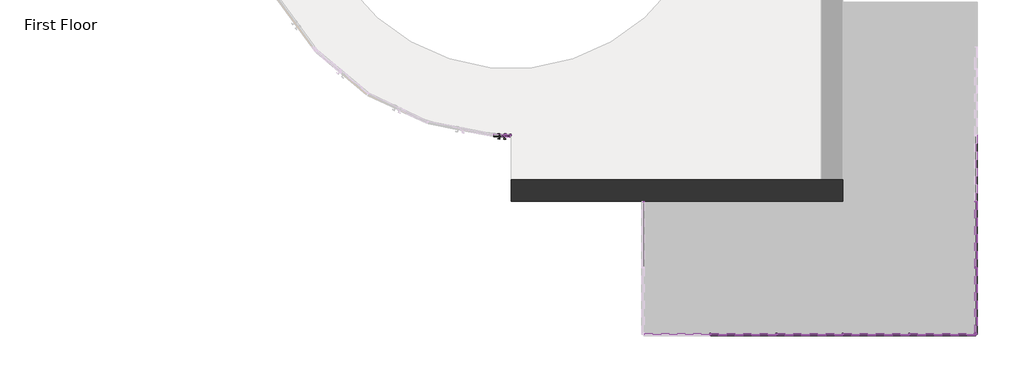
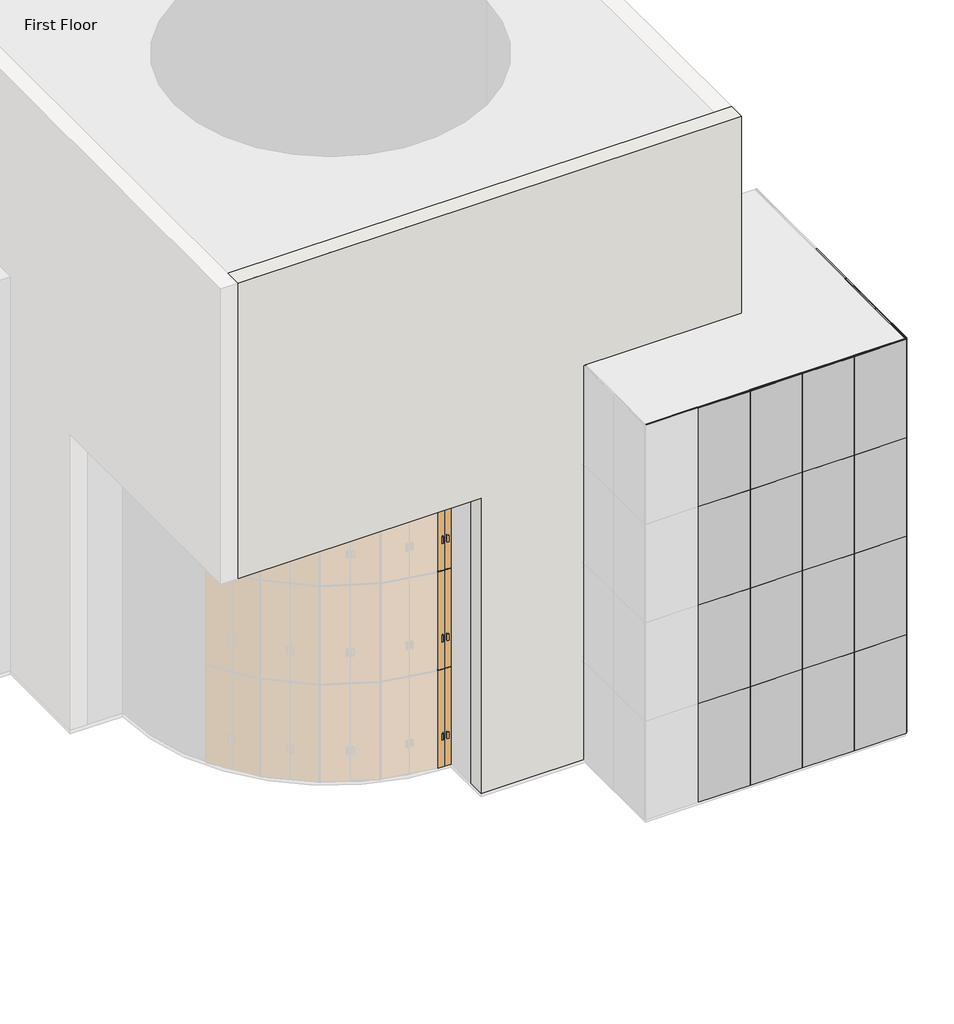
# One storey, part 2 of 4: 78 members, 28 plates, 3 doors, 1 wall.
"""IFC4 building model written with IfcOpenShell, lengths in millimetres."""

from ifc_helpers import new_model, si_unit, origin, place, context, project, spatial, faceted_brep, transform, mapped, element, save
from components import door_curtain_wall_double_glass_door_curtain_wall_double_37eb0fd1, door_curtain_wall_double_glass_door_curtain_wall_double_6fb70b25, member_bc106393, member_cbdb9076, member_707bc92b, member_7e523723, member_e16e0e7d, member_15743826, member_c4f80b05, member_9fd3d903, member_6604d1e0, system_panel_glazed_c0c5e10a

model = new_model("IFC4")

# Units and contexts
model_context = context("Model", 3, world=origin())
ifc_project = project(units=[si_unit("LENGTHUNIT", "METRE", prefix="MILLI")], contexts=[model_context])

# Site, building, storey
site = spatial("IfcSite", under=ifc_project)
building = spatial("IfcBuilding", under=site)
storey = spatial("IfcBuildingStorey", under=building, Name="First Floor", Elevation=0.0)

# Doors
placement = place(None, origin())
door_curtain_wall_double_glass_door_curtain_wall_double_shape = door_curtain_wall_double_glass_door_curtain_wall_double_37eb0fd1(model_context)
element("IfcDoor", 1, ObjectType="Door-Curtain-Wall-Double-Glass : Door-Curtain-Wall-Double-Glass", at=placement, inside=storey, context=model_context, shape_type="MappedRepresentation", body=[
    mapped(door_curtain_wall_double_glass_door_curtain_wall_double_shape, transform((35.3231659, -6131.599084, 25.4), x_axis=(0.9994412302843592, -0.03342494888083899, 0.0), y_axis=(0.03342494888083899, 0.9994412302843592, 0.0), z_axis=(0.0, 0.0, 1.0))),
])
element("IfcDoor", 2, ObjectType="Door-Curtain-Wall-Double-Glass : Door-Curtain-Wall-Double-Glass", at=placement, inside=storey, context=model_context, shape_type="MappedRepresentation", body=[
    mapped(door_curtain_wall_double_glass_door_curtain_wall_double_shape, transform((35.3231659, -6131.599084, 6108.7), x_axis=(0.9994412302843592, -0.033424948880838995, 0.0), y_axis=(0.033424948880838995, 0.9994412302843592, 0.0), z_axis=(0.0, 0.0, 1.0))),
])
door_curtain_wall_double_glass_door_curtain_wall_double_2_shape = door_curtain_wall_double_glass_door_curtain_wall_double_6fb70b25(model_context)
element("IfcDoor", 3, ObjectType="Door-Curtain-Wall-Double-Glass : Door-Curtain-Wall-Double-Glass", at=placement, inside=storey, context=model_context, shape_type="MappedRepresentation", body=[
    mapped(door_curtain_wall_double_glass_door_curtain_wall_double_2_shape, transform((35.3231659, -6131.599084, 3060.7), x_axis=(0.9994412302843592, -0.033424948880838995, 0.0), y_axis=(0.033424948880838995, 0.9994412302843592, 0.0), z_axis=(0.0, 0.0, 1.0))),
])

# Members
member_shape = member_bc106393(model_context)
element("IfcMember", 4, ObjectType="Rectangular Mullion : 1\" Square", at=placement, inside=storey, context=model_context, shape_type="MappedRepresentation", body=[
    mapped(member_shape, transform((219.9284447, -6137.7729558, 9144.0), x_axis=(0.0, 0.0, 1.0), y_axis=(-0.03342494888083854, -0.9994412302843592, 0.0), z_axis=(0.999441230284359, -0.03342494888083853, 0.0))),
])
member_2_shape = member_cbdb9076(model_context)
element("IfcMember", 5, ObjectType="Rectangular Mullion : 1\" Square", at=placement, inside=storey, context=model_context, shape_type="MappedRepresentation", body=[
    mapped(member_2_shape, transform((4817.3142523, -10710.6219495, 0.0), x_axis=(1.0, 0.0, 0.0), y_axis=(0.0, -1.0, 0.0), z_axis=(0.0, 0.0, -1.0))),
])
element("IfcMember", 6, ObjectType="Rectangular Mullion : 1\" Square", at=placement, inside=storey, context=model_context, shape_type="MappedRepresentation", body=[
    mapped(member_2_shape, transform((6341.3142523, -10710.6219495, 0.0), x_axis=(1.0, 0.0, 0.0), y_axis=(0.0, -1.0, 0.0), z_axis=(0.0, 0.0, -1.0))),
])
element("IfcMember", 7, ObjectType="Rectangular Mullion : 1\" Square", at=placement, inside=storey, context=model_context, shape_type="MappedRepresentation", body=[
    mapped(member_2_shape, transform((7865.3142523, -10710.6219495, 0.0), x_axis=(1.0, 0.0, 0.0), y_axis=(0.0, -1.0, 0.0), z_axis=(0.0, 0.0, -1.0))),
])
element("IfcMember", 8, ObjectType="Rectangular Mullion : 1\" Square", at=placement, inside=storey, context=model_context, shape_type="MappedRepresentation", body=[
    mapped(member_2_shape, transform((9389.3142523, -10710.6219495, 0.0), x_axis=(1.0, 0.0, 0.0), y_axis=(0.0, -1.0, 0.0), z_axis=(0.0, 0.0, -1.0))),
])
element("IfcMember", 9, ObjectType="Rectangular Mullion : 1\" Square", at=placement, inside=storey, context=model_context, shape_type="MappedRepresentation", body=[
    mapped(member_2_shape, transform((10913.314252, -9186.6219492, 0.0), x_axis=(0.0, 1.0, 0.0), y_axis=(1.0, 0.0, 0.0), z_axis=(0.0, 0.0, -1.0))),
])
element("IfcMember", 10, ObjectType="Rectangular Mullion : 1\" Square", at=placement, inside=storey, context=model_context, shape_type="MappedRepresentation", body=[
    mapped(member_2_shape, transform((10913.314252, -7662.6219492, 0.0), x_axis=(0.0, 1.0, 0.0), y_axis=(1.0, 0.0, 0.0), z_axis=(0.0, 0.0, -1.0))),
])
member_3_shape = member_707bc92b(model_context)
element("IfcMember", 11, ObjectType="Rectangular Mullion : 1\" Square", at=placement, inside=storey, context=model_context, shape_type="MappedRepresentation", body=[
    mapped(member_3_shape, transform((219.9284447, -6137.7729558, 3048.0), x_axis=(0.0, 0.0, 1.0), y_axis=(-0.03342494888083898, -0.9994412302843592, 0.0), z_axis=(0.999441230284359, -0.033424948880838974, 0.0))),
])
element("IfcMember", 12, ObjectType="Rectangular Mullion : 1\" Square", at=placement, inside=storey, context=model_context, shape_type="MappedRepresentation", body=[
    mapped(member_3_shape, transform((219.9284447, -6137.7729558, 6096.0), x_axis=(0.0, 0.0, 1.0), y_axis=(-0.033424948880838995, -0.9994412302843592, 0.0), z_axis=(0.999441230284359, -0.03342494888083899, 0.0))),
])
element("IfcMember", 13, ObjectType="Rectangular Mullion : 1\" Square", at=placement, inside=storey, context=model_context, shape_type="MappedRepresentation", body=[
    mapped(member_2_shape, transform((4817.3142523, -10710.6219495, 3048.0), x_axis=(1.0, 0.0, 0.0), y_axis=(0.0, -1.0, 0.0), z_axis=(0.0, 0.0, -1.0))),
])
element("IfcMember", 14, ObjectType="Rectangular Mullion : 1\" Square", at=placement, inside=storey, context=model_context, shape_type="MappedRepresentation", body=[
    mapped(member_2_shape, transform((4817.3142523, -10710.6219495, 6096.0), x_axis=(1.0, 0.0, 0.0), y_axis=(0.0, -1.0, 0.0), z_axis=(0.0, 0.0, -1.0))),
])
element("IfcMember", 15, ObjectType="Rectangular Mullion : 1\" Square", at=placement, inside=storey, context=model_context, shape_type="MappedRepresentation", body=[
    mapped(member_2_shape, transform((6341.3142523, -10710.6219495, 3048.0), x_axis=(1.0, 0.0, 0.0), y_axis=(0.0, -1.0, 0.0), z_axis=(0.0, 0.0, -1.0))),
])
element("IfcMember", 16, ObjectType="Rectangular Mullion : 1\" Square", at=placement, inside=storey, context=model_context, shape_type="MappedRepresentation", body=[
    mapped(member_2_shape, transform((6341.3142523, -10710.6219495, 6096.0), x_axis=(1.0, 0.0, 0.0), y_axis=(0.0, -1.0, 0.0), z_axis=(0.0, 0.0, -1.0))),
])
element("IfcMember", 17, ObjectType="Rectangular Mullion : 1\" Square", at=placement, inside=storey, context=model_context, shape_type="MappedRepresentation", body=[
    mapped(member_2_shape, transform((7865.3142523, -10710.6219495, 3048.0), x_axis=(1.0, 0.0, 0.0), y_axis=(0.0, -1.0, 0.0), z_axis=(0.0, 0.0, -1.0))),
])
element("IfcMember", 18, ObjectType="Rectangular Mullion : 1\" Square", at=placement, inside=storey, context=model_context, shape_type="MappedRepresentation", body=[
    mapped(member_2_shape, transform((7865.3142523, -10710.6219495, 6096.0), x_axis=(1.0, 0.0, 0.0), y_axis=(0.0, -1.0, 0.0), z_axis=(0.0, 0.0, -1.0))),
])
element("IfcMember", 19, ObjectType="Rectangular Mullion : 1\" Square", at=placement, inside=storey, context=model_context, shape_type="MappedRepresentation", body=[
    mapped(member_2_shape, transform((9389.3142523, -10710.6219495, 3048.0), x_axis=(1.0, 0.0, 0.0), y_axis=(0.0, -1.0, 0.0), z_axis=(0.0, 0.0, -1.0))),
])
element("IfcMember", 20, ObjectType="Rectangular Mullion : 1\" Square", at=placement, inside=storey, context=model_context, shape_type="MappedRepresentation", body=[
    mapped(member_2_shape, transform((9389.3142523, -10710.6219495, 6096.0), x_axis=(1.0, 0.0, 0.0), y_axis=(0.0, -1.0, 0.0), z_axis=(0.0, 0.0, -1.0))),
])
element("IfcMember", 21, ObjectType="Rectangular Mullion : 1\" Square", at=placement, inside=storey, context=model_context, shape_type="MappedRepresentation", body=[
    mapped(member_2_shape, transform((10913.314252, -9186.6219492, 3048.0), x_axis=(0.0, 1.0, 0.0), y_axis=(1.0, 0.0, 0.0), z_axis=(0.0, 0.0, -1.0))),
])
element("IfcMember", 22, ObjectType="Rectangular Mullion : 1\" Square", at=placement, inside=storey, context=model_context, shape_type="MappedRepresentation", body=[
    mapped(member_2_shape, transform((10913.314252, -9186.6219492, 6096.0), x_axis=(0.0, 1.0, 0.0), y_axis=(1.0, 0.0, 0.0), z_axis=(0.0, 0.0, -1.0))),
])
element("IfcMember", 23, ObjectType="Rectangular Mullion : 1\" Square", at=placement, inside=storey, context=model_context, shape_type="MappedRepresentation", body=[
    mapped(member_2_shape, transform((10913.314252, -7662.6219492, 3048.0), x_axis=(0.0, 1.0, 0.0), y_axis=(1.0, 0.0, 0.0), z_axis=(0.0, 0.0, -1.0))),
])
element("IfcMember", 24, ObjectType="Rectangular Mullion : 1\" Square", at=placement, inside=storey, context=model_context, shape_type="MappedRepresentation", body=[
    mapped(member_2_shape, transform((10913.314252, -7662.6219492, 6096.0), x_axis=(0.0, 1.0, 0.0), y_axis=(1.0, 0.0, 0.0), z_axis=(0.0, 0.0, -1.0))),
])
element("IfcMember", 25, ObjectType="Rectangular Mullion : 1\" Square", at=placement, inside=storey, context=model_context, shape_type="MappedRepresentation", body=[
    mapped(member_2_shape, transform((4817.3142523, -10710.6219495, 9144.0), x_axis=(1.0, 0.0, 0.0), y_axis=(0.0, -1.0, 0.0), z_axis=(0.0, 0.0, -1.0))),
])
element("IfcMember", 26, ObjectType="Rectangular Mullion : 1\" Square", at=placement, inside=storey, context=model_context, shape_type="MappedRepresentation", body=[
    mapped(member_2_shape, transform((6341.3142523, -10710.6219495, 9144.0), x_axis=(1.0, 0.0, 0.0), y_axis=(0.0, -1.0, 0.0), z_axis=(0.0, 0.0, -1.0))),
])
element("IfcMember", 27, ObjectType="Rectangular Mullion : 1\" Square", at=placement, inside=storey, context=model_context, shape_type="MappedRepresentation", body=[
    mapped(member_2_shape, transform((7865.3142523, -10710.6219495, 9144.0), x_axis=(1.0, 0.0, 0.0), y_axis=(0.0, -1.0, 0.0), z_axis=(0.0, 0.0, -1.0))),
])
element("IfcMember", 28, ObjectType="Rectangular Mullion : 1\" Square", at=placement, inside=storey, context=model_context, shape_type="MappedRepresentation", body=[
    mapped(member_2_shape, transform((9389.3142523, -10710.6219495, 9144.0), x_axis=(1.0, 0.0, 0.0), y_axis=(0.0, -1.0, 0.0), z_axis=(0.0, 0.0, -1.0))),
])
element("IfcMember", 29, ObjectType="Rectangular Mullion : 1\" Square", at=placement, inside=storey, context=model_context, shape_type="MappedRepresentation", body=[
    mapped(member_2_shape, transform((10913.314252, -9186.6219492, 9144.0), x_axis=(0.0, 1.0, 0.0), y_axis=(1.0, 0.0, 0.0), z_axis=(0.0, 0.0, -1.0))),
])
element("IfcMember", 30, ObjectType="Rectangular Mullion : 1\" Square", at=placement, inside=storey, context=model_context, shape_type="MappedRepresentation", body=[
    mapped(member_2_shape, transform((10913.314252, -7662.6219492, 9144.0), x_axis=(0.0, 1.0, 0.0), y_axis=(1.0, 0.0, 0.0), z_axis=(0.0, 0.0, -1.0))),
])
member_4_shape = member_7e523723(model_context)
element("IfcMember", 31, ObjectType="Rectangular Mullion : 1\" Square", at=placement, inside=storey, context=model_context, shape_type="MappedRepresentation", body=[
    mapped(member_4_shape, transform((245.314252, -6138.6219495, 0.0), x_axis=(0.9994412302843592, -0.03342494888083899, 0.0), y_axis=(-0.03342494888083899, -0.9994412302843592, 0.0), z_axis=(0.0, 0.0, -1.0))),
])
element("IfcMember", 32, ObjectType="Rectangular Mullion : 1\" Square", at=placement, inside=storey, context=model_context, shape_type="MappedRepresentation", body=[
    mapped(member_4_shape, transform((10913.314252, -10710.6219495, 0.0), x_axis=(1.0, 0.0, 0.0), y_axis=(0.0, -1.0, 0.0), z_axis=(0.0, 0.0, -1.0))),
])
element("IfcMember", 33, ObjectType="Rectangular Mullion : 1\" Square", at=placement, inside=storey, context=model_context, shape_type="MappedRepresentation", body=[
    mapped(member_4_shape, transform((3293.314252, -7662.6219495, 12192.0), x_axis=(0.0, 1.0, 0.0), y_axis=(-1.0, 0.0, 0.0), z_axis=(0.0, 0.0, 1.0))),
])
element("IfcMember", 34, ObjectType="Rectangular Mullion : 1\" Square", at=placement, inside=storey, context=model_context, shape_type="MappedRepresentation", body=[
    mapped(member_4_shape, transform((10913.314252, -10710.6219495, 12192.0), x_axis=(0.0, -1.0, 0.0), y_axis=(1.0, 0.0, 0.0), z_axis=(0.0, 0.0, 1.0))),
])
element("IfcMember", 35, ObjectType="Rectangular Mullion : 1\" Square", at=placement, inside=storey, context=model_context, shape_type="MappedRepresentation", body=[
    mapped(member_4_shape, transform((3293.314252, -7662.6219495, 3048.0), x_axis=(0.0, 1.0, 0.0), y_axis=(-1.0, 0.0, 0.0), z_axis=(0.0, 0.0, 1.0))),
])
element("IfcMember", 36, ObjectType="Rectangular Mullion : 1\" Square", at=placement, inside=storey, context=model_context, shape_type="MappedRepresentation", body=[
    mapped(member_4_shape, transform((10913.314252, -10710.6219495, 3048.0), x_axis=(0.0, -1.0, 0.0), y_axis=(1.0, 0.0, 0.0), z_axis=(0.0, 0.0, 1.0))),
])
element("IfcMember", 37, ObjectType="Rectangular Mullion : 1\" Square", at=placement, inside=storey, context=model_context, shape_type="MappedRepresentation", body=[
    mapped(member_4_shape, transform((3293.314252, -7662.6219495, 6096.0), x_axis=(0.0, 1.0, 0.0), y_axis=(-1.0, 0.0, 0.0), z_axis=(0.0, 0.0, 1.0))),
])
element("IfcMember", 38, ObjectType="Rectangular Mullion : 1\" Square", at=placement, inside=storey, context=model_context, shape_type="MappedRepresentation", body=[
    mapped(member_4_shape, transform((3293.314252, -7662.6219495, 9144.0), x_axis=(0.0, 1.0, 0.0), y_axis=(-1.0, 0.0, 0.0), z_axis=(0.0, 0.0, 1.0))),
])
element("IfcMember", 39, ObjectType="Rectangular Mullion : 1\" Square", at=placement, inside=storey, context=model_context, shape_type="MappedRepresentation", body=[
    mapped(member_4_shape, transform((10913.314252, -10710.6219495, 6096.0), x_axis=(0.0, -1.0, 0.0), y_axis=(1.0, 0.0, 0.0), z_axis=(0.0, 0.0, 1.0))),
])
element("IfcMember", 40, ObjectType="Rectangular Mullion : 1\" Square", at=placement, inside=storey, context=model_context, shape_type="MappedRepresentation", body=[
    mapped(member_4_shape, transform((10913.314252, -10710.6219495, 9144.0), x_axis=(0.0, -1.0, 0.0), y_axis=(1.0, 0.0, 0.0), z_axis=(0.0, 0.0, 1.0))),
])
element("IfcMember", 41, ObjectType="Rectangular Mullion : 1\" Square", at=placement, inside=storey, context=model_context, shape_type="MappedRepresentation", body=[
    mapped(member_4_shape, transform((245.314252, -6138.6219495, 3048.0), x_axis=(0.9994412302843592, -0.033424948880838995, 0.0), y_axis=(-0.033424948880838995, -0.9994412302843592, 0.0), z_axis=(0.0, 0.0, -1.0))),
])
element("IfcMember", 42, ObjectType="Rectangular Mullion : 1\" Square", at=placement, inside=storey, context=model_context, shape_type="MappedRepresentation", body=[
    mapped(member_4_shape, transform((10913.314252, -10710.6219495, 3048.0), x_axis=(1.0, 0.0, 0.0), y_axis=(0.0, -1.0, 0.0), z_axis=(0.0, 0.0, -1.0))),
])
element("IfcMember", 43, ObjectType="Rectangular Mullion : 1\" Square", at=placement, inside=storey, context=model_context, shape_type="MappedRepresentation", body=[
    mapped(member_4_shape, transform((10913.314252, -10710.6219495, 6096.0), x_axis=(1.0, 0.0, 0.0), y_axis=(0.0, -1.0, 0.0), z_axis=(0.0, 0.0, -1.0))),
])
element("IfcMember", 44, ObjectType="Rectangular Mullion : 1\" Square", at=placement, inside=storey, context=model_context, shape_type="MappedRepresentation", body=[
    mapped(member_4_shape, transform((245.314252, -6138.6219495, 6096.0), x_axis=(0.9994412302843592, -0.033424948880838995, 0.0), y_axis=(-0.033424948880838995, -0.9994412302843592, 0.0), z_axis=(0.0, 0.0, -1.0))),
])
element("IfcMember", 45, ObjectType="Rectangular Mullion : 1\" Square", at=placement, inside=storey, context=model_context, shape_type="MappedRepresentation", body=[
    mapped(member_4_shape, transform((10913.314252, -10710.6219495, 9144.0), x_axis=(1.0, 0.0, 0.0), y_axis=(0.0, -1.0, 0.0), z_axis=(0.0, 0.0, -1.0))),
])
member_5_shape = member_e16e0e7d(model_context)
element("IfcMember", 46, ObjectType="Rectangular Mullion : 1\" Square", at=placement, inside=storey, context=model_context, shape_type="MappedRepresentation", body=[
    mapped(member_5_shape, transform((10887.914252, -10710.6219495, 12192.0), x_axis=(0.0, 0.0, 1.0), y_axis=(0.0, -1.0, 0.0), z_axis=(1.0, 0.0, 0.0))),
])
element("IfcMember", 47, ObjectType="Rectangular Mullion : 1\" Square", at=placement, inside=storey, context=model_context, shape_type="MappedRepresentation", body=[
    mapped(member_5_shape, transform((4804.6142523, -10710.6219495, 12192.0), x_axis=(0.0, 0.0, 1.0), y_axis=(0.0, -1.0, 0.0), z_axis=(1.0, 0.0, 0.0))),
])
element("IfcMember", 48, ObjectType="Rectangular Mullion : 1\" Square", at=placement, inside=storey, context=model_context, shape_type="MappedRepresentation", body=[
    mapped(member_5_shape, transform((10913.314252, -9199.3219492, 12192.0), x_axis=(0.0, 0.0, 1.0), y_axis=(1.0, 0.0, 0.0), z_axis=(0.0, 1.0, 0.0))),
])
member_6_shape = member_15743826(model_context)
element("IfcMember", 49, ObjectType="Rectangular Mullion : 1\" Square", at=placement, inside=storey, context=model_context, shape_type="MappedRepresentation", body=[
    mapped(member_6_shape, transform((9402.0142523, -10710.6219495, 0.0), x_axis=(0.0, 0.0, -1.0), y_axis=(0.0, -1.0, 0.0), z_axis=(-1.0, 0.0, 0.0))),
])
element("IfcMember", 50, ObjectType="Rectangular Mullion : 1\" Square", at=placement, inside=storey, context=model_context, shape_type="MappedRepresentation", body=[
    mapped(member_6_shape, transform((3293.314252, -7688.0219495, 0.0), x_axis=(0.0, 0.0, -1.0), y_axis=(-1.0, 0.0, 0.0), z_axis=(0.0, 1.0, 0.0))),
])
element("IfcMember", 51, ObjectType="Rectangular Mullion : 1\" Square", at=placement, inside=storey, context=model_context, shape_type="MappedRepresentation", body=[
    mapped(member_6_shape, transform((10913.314252, -10685.2219495, 0.0), x_axis=(0.0, 0.0, -1.0), y_axis=(1.0, 0.0, 0.0), z_axis=(0.0, -1.0, 0.0))),
])
member_7_shape = member_c4f80b05(model_context)
element("IfcMember", 52, ObjectType="Rectangular Mullion : 1\" Square", at=placement, inside=storey, context=model_context, shape_type="MappedRepresentation", body=[
    mapped(member_7_shape, transform((4804.6142523, -10710.6219495, 3048.0), x_axis=(0.0, 0.0, 1.0), y_axis=(0.0, -1.0, 0.0), z_axis=(1.0, 0.0, 0.0))),
])
element("IfcMember", 53, ObjectType="Rectangular Mullion : 1\" Square", at=placement, inside=storey, context=model_context, shape_type="MappedRepresentation", body=[
    mapped(member_7_shape, transform((10887.914252, -10710.6219495, 3048.0), x_axis=(0.0, 0.0, 1.0), y_axis=(0.0, -1.0, 0.0), z_axis=(1.0, 0.0, 0.0))),
])
element("IfcMember", 54, ObjectType="Rectangular Mullion : 1\" Square", at=placement, inside=storey, context=model_context, shape_type="MappedRepresentation", body=[
    mapped(member_7_shape, transform((4804.6142523, -10710.6219495, 6096.0), x_axis=(0.0, 0.0, 1.0), y_axis=(0.0, -1.0, 0.0), z_axis=(1.0, 0.0, 0.0))),
])
element("IfcMember", 55, ObjectType="Rectangular Mullion : 1\" Square", at=placement, inside=storey, context=model_context, shape_type="MappedRepresentation", body=[
    mapped(member_7_shape, transform((10887.914252, -10710.6219495, 6096.0), x_axis=(0.0, 0.0, 1.0), y_axis=(0.0, -1.0, 0.0), z_axis=(1.0, 0.0, 0.0))),
])
element("IfcMember", 56, ObjectType="Rectangular Mullion : 1\" Square", at=placement, inside=storey, context=model_context, shape_type="MappedRepresentation", body=[
    mapped(member_7_shape, transform((4804.6142523, -10710.6219495, 9144.0), x_axis=(0.0, 0.0, 1.0), y_axis=(0.0, -1.0, 0.0), z_axis=(1.0, 0.0, 0.0))),
])
element("IfcMember", 57, ObjectType="Rectangular Mullion : 1\" Square", at=placement, inside=storey, context=model_context, shape_type="MappedRepresentation", body=[
    mapped(member_7_shape, transform((10887.914252, -10710.6219495, 9144.0), x_axis=(0.0, 0.0, 1.0), y_axis=(0.0, -1.0, 0.0), z_axis=(1.0, 0.0, 0.0))),
])
element("IfcMember", 58, ObjectType="Rectangular Mullion : 1\" Square", at=placement, inside=storey, context=model_context, shape_type="MappedRepresentation", body=[
    mapped(member_7_shape, transform((10913.314252, -9199.3219492, 3048.0), x_axis=(0.0, 0.0, 1.0), y_axis=(1.0, 0.0, 0.0), z_axis=(0.0, 1.0, 0.0))),
])
element("IfcMember", 59, ObjectType="Rectangular Mullion : 1\" Square", at=placement, inside=storey, context=model_context, shape_type="MappedRepresentation", body=[
    mapped(member_7_shape, transform((10913.314252, -9199.3219492, 6096.0), x_axis=(0.0, 0.0, 1.0), y_axis=(1.0, 0.0, 0.0), z_axis=(0.0, 1.0, 0.0))),
])
element("IfcMember", 60, ObjectType="Rectangular Mullion : 1\" Square", at=placement, inside=storey, context=model_context, shape_type="MappedRepresentation", body=[
    mapped(member_7_shape, transform((10913.314252, -9199.3219492, 9144.0), x_axis=(0.0, 0.0, 1.0), y_axis=(1.0, 0.0, 0.0), z_axis=(0.0, 1.0, 0.0))),
])
member_8_shape = member_9fd3d903(model_context)
element("IfcMember", 61, ObjectType="Rectangular Mullion : 1\" Square", at=placement, inside=storey, context=model_context, shape_type="MappedRepresentation", body=[
    mapped(member_8_shape, transform((6328.6142523, -10710.6219495, 3048.0), x_axis=(0.0, 0.0, 1.0), y_axis=(0.0, -1.0, 0.0), z_axis=(1.0, 0.0, 0.0))),
])
element("IfcMember", 62, ObjectType="Rectangular Mullion : 1\" Square", at=placement, inside=storey, context=model_context, shape_type="MappedRepresentation", body=[
    mapped(member_8_shape, transform((7852.6142523, -10710.6219495, 3048.0), x_axis=(0.0, 0.0, 1.0), y_axis=(0.0, -1.0, 0.0), z_axis=(1.0, 0.0, 0.0))),
])
element("IfcMember", 63, ObjectType="Rectangular Mullion : 1\" Square", at=placement, inside=storey, context=model_context, shape_type="MappedRepresentation", body=[
    mapped(member_8_shape, transform((9376.6142523, -10710.6219495, 3048.0), x_axis=(0.0, 0.0, 1.0), y_axis=(0.0, -1.0, 0.0), z_axis=(1.0, 0.0, 0.0))),
])
element("IfcMember", 64, ObjectType="Rectangular Mullion : 1\" Square", at=placement, inside=storey, context=model_context, shape_type="MappedRepresentation", body=[
    mapped(member_8_shape, transform((6328.6142523, -10710.6219495, 6096.0), x_axis=(0.0, 0.0, 1.0), y_axis=(0.0, -1.0, 0.0), z_axis=(1.0, 0.0, 0.0))),
])
element("IfcMember", 65, ObjectType="Rectangular Mullion : 1\" Square", at=placement, inside=storey, context=model_context, shape_type="MappedRepresentation", body=[
    mapped(member_8_shape, transform((7852.6142523, -10710.6219495, 6096.0), x_axis=(0.0, 0.0, 1.0), y_axis=(0.0, -1.0, 0.0), z_axis=(1.0, 0.0, 0.0))),
])
element("IfcMember", 66, ObjectType="Rectangular Mullion : 1\" Square", at=placement, inside=storey, context=model_context, shape_type="MappedRepresentation", body=[
    mapped(member_8_shape, transform((9376.6142523, -10710.6219495, 6096.0), x_axis=(0.0, 0.0, 1.0), y_axis=(0.0, -1.0, 0.0), z_axis=(1.0, 0.0, 0.0))),
])
element("IfcMember", 67, ObjectType="Rectangular Mullion : 1\" Square", at=placement, inside=storey, context=model_context, shape_type="MappedRepresentation", body=[
    mapped(member_8_shape, transform((6328.6142523, -10710.6219495, 9144.0), x_axis=(0.0, 0.0, 1.0), y_axis=(0.0, -1.0, 0.0), z_axis=(1.0, 0.0, 0.0))),
])
element("IfcMember", 68, ObjectType="Rectangular Mullion : 1\" Square", at=placement, inside=storey, context=model_context, shape_type="MappedRepresentation", body=[
    mapped(member_8_shape, transform((7852.6142523, -10710.6219495, 9144.0), x_axis=(0.0, 0.0, 1.0), y_axis=(0.0, -1.0, 0.0), z_axis=(1.0, 0.0, 0.0))),
])
element("IfcMember", 69, ObjectType="Rectangular Mullion : 1\" Square", at=placement, inside=storey, context=model_context, shape_type="MappedRepresentation", body=[
    mapped(member_8_shape, transform((9376.6142523, -10710.6219495, 9144.0), x_axis=(0.0, 0.0, 1.0), y_axis=(0.0, -1.0, 0.0), z_axis=(1.0, 0.0, 0.0))),
])
element("IfcMember", 70, ObjectType="Rectangular Mullion : 1\" Square", at=placement, inside=storey, context=model_context, shape_type="MappedRepresentation", body=[
    mapped(member_8_shape, transform((10913.314252, -7675.3219492, 3048.0), x_axis=(0.0, 0.0, 1.0), y_axis=(1.0, 0.0, 0.0), z_axis=(0.0, 1.0, 0.0))),
])
element("IfcMember", 71, ObjectType="Rectangular Mullion : 1\" Square", at=placement, inside=storey, context=model_context, shape_type="MappedRepresentation", body=[
    mapped(member_8_shape, transform((10913.314252, -7675.3219492, 6096.0), x_axis=(0.0, 0.0, 1.0), y_axis=(1.0, 0.0, 0.0), z_axis=(0.0, 1.0, 0.0))),
])
element("IfcMember", 72, ObjectType="Rectangular Mullion : 1\" Square", at=placement, inside=storey, context=model_context, shape_type="MappedRepresentation", body=[
    mapped(member_8_shape, transform((10913.314252, -7675.3219492, 9144.0), x_axis=(0.0, 0.0, 1.0), y_axis=(1.0, 0.0, 0.0), z_axis=(0.0, 1.0, 0.0))),
])
member_9_shape = member_6604d1e0(model_context)
element("IfcMember", 73, ObjectType="Rectangular Mullion : 1\" Square", at=placement, inside=storey, context=model_context, shape_type="MappedRepresentation", body=[
    mapped(member_9_shape, transform((4830.0142523, -10710.6219495, 0.0), x_axis=(0.0, 0.0, -1.0), y_axis=(0.0, -1.0, 0.0), z_axis=(-1.0, 0.0, 0.0))),
])
element("IfcMember", 74, ObjectType="Rectangular Mullion : 1\" Square", at=placement, inside=storey, context=model_context, shape_type="MappedRepresentation", body=[
    mapped(member_9_shape, transform((6354.0142523, -10710.6219495, 0.0), x_axis=(0.0, 0.0, -1.0), y_axis=(0.0, -1.0, 0.0), z_axis=(-1.0, 0.0, 0.0))),
])
element("IfcMember", 75, ObjectType="Rectangular Mullion : 1\" Square", at=placement, inside=storey, context=model_context, shape_type="MappedRepresentation", body=[
    mapped(member_9_shape, transform((7878.0142523, -10710.6219495, 0.0), x_axis=(0.0, 0.0, -1.0), y_axis=(0.0, -1.0, 0.0), z_axis=(-1.0, 0.0, 0.0))),
])
element("IfcMember", 76, ObjectType="Rectangular Mullion : 1\" Square", at=placement, inside=storey, context=model_context, shape_type="MappedRepresentation", body=[
    mapped(member_9_shape, transform((10913.314252, -9173.9219492, 0.0), x_axis=(0.0, 0.0, -1.0), y_axis=(1.0, 0.0, 0.0), z_axis=(0.0, -1.0, 0.0))),
])
element("IfcMember", 77, ObjectType="Rectangular Mullion : 1\" Square", at=placement, inside=storey, context=model_context, shape_type="MappedRepresentation", body=[
    mapped(member_9_shape, transform((10913.314252, -7649.9219492, 0.0), x_axis=(0.0, 0.0, -1.0), y_axis=(1.0, 0.0, 0.0), z_axis=(0.0, -1.0, 0.0))),
])
element("IfcMember", 78, ObjectType="Rectangular Mullion : 1\" Square", at=placement, inside=storey, context=model_context, shape_type="MappedRepresentation", body=[
    mapped(member_9_shape, transform((6328.6142523, -10710.6219495, 12192.0), x_axis=(0.0, 0.0, 1.0), y_axis=(0.0, -1.0, 0.0), z_axis=(1.0, 0.0, 0.0))),
])
element("IfcMember", 79, ObjectType="Rectangular Mullion : 1\" Square", at=placement, inside=storey, context=model_context, shape_type="MappedRepresentation", body=[
    mapped(member_9_shape, transform((7852.6142523, -10710.6219495, 12192.0), x_axis=(0.0, 0.0, 1.0), y_axis=(0.0, -1.0, 0.0), z_axis=(1.0, 0.0, 0.0))),
])
element("IfcMember", 80, ObjectType="Rectangular Mullion : 1\" Square", at=placement, inside=storey, context=model_context, shape_type="MappedRepresentation", body=[
    mapped(member_9_shape, transform((9376.6142523, -10710.6219495, 12192.0), x_axis=(0.0, 0.0, 1.0), y_axis=(0.0, -1.0, 0.0), z_axis=(1.0, 0.0, 0.0))),
])
element("IfcMember", 81, ObjectType="Rectangular Mullion : 1\" Square", at=placement, inside=storey, context=model_context, shape_type="MappedRepresentation", body=[
    mapped(member_9_shape, transform((10913.314252, -7675.3219492, 12192.0), x_axis=(0.0, 0.0, 1.0), y_axis=(1.0, 0.0, 0.0), z_axis=(0.0, 1.0, 0.0))),
])

# Plates
system_panel_glazed_shape = system_panel_glazed_c0c5e10a(model_context)
element("IfcPlate", 82, ObjectType="System Panel : Glazed", at=placement, inside=storey, context=model_context, shape_type="MappedRepresentation", body=[
    mapped(system_panel_glazed_shape, transform((5579.3142523, -10710.6219495, 0.0), x_axis=(1.0, 0.0, 0.0), y_axis=(0.0, 1.0, 0.0), z_axis=(0.0, 0.0, 1.0))),
])
element("IfcPlate", 83, ObjectType="System Panel : Glazed", at=placement, inside=storey, context=model_context, shape_type="MappedRepresentation", body=[
    mapped(system_panel_glazed_shape, transform((7103.3142523, -10710.6219495, 0.0), x_axis=(1.0, 0.0, 0.0), y_axis=(0.0, 1.0, 0.0), z_axis=(0.0, 0.0, 1.0))),
])
element("IfcPlate", 84, ObjectType="System Panel : Glazed", at=placement, inside=storey, context=model_context, shape_type="MappedRepresentation", body=[
    mapped(system_panel_glazed_shape, transform((8627.3142523, -10710.6219495, 0.0), x_axis=(1.0, 0.0, 0.0), y_axis=(0.0, 1.0, 0.0), z_axis=(0.0, 0.0, 1.0))),
])
element("IfcPlate", 85, ObjectType="System Panel : Glazed", at=placement, inside=storey, context=model_context, shape_type="MappedRepresentation", body=[
    mapped(system_panel_glazed_shape, transform((10151.3142521, -10710.6219495, 0.0), x_axis=(1.0, 0.0, 0.0), y_axis=(0.0, 1.0, 0.0), z_axis=(0.0, 0.0, 1.0))),
])
element("IfcPlate", 86, ObjectType="System Panel : Glazed", at=placement, inside=storey, context=model_context, shape_type="MappedRepresentation", body=[
    mapped(system_panel_glazed_shape, transform((5579.3142523, -10710.6219495, 3048.0), x_axis=(1.0, 0.0, 0.0), y_axis=(0.0, 1.0, 0.0), z_axis=(0.0, 0.0, 1.0))),
])
element("IfcPlate", 87, ObjectType="System Panel : Glazed", at=placement, inside=storey, context=model_context, shape_type="MappedRepresentation", body=[
    mapped(system_panel_glazed_shape, transform((7103.3142523, -10710.6219495, 3048.0), x_axis=(1.0, 0.0, 0.0), y_axis=(0.0, 1.0, 0.0), z_axis=(0.0, 0.0, 1.0))),
])
element("IfcPlate", 88, ObjectType="System Panel : Glazed", at=placement, inside=storey, context=model_context, shape_type="MappedRepresentation", body=[
    mapped(system_panel_glazed_shape, transform((8627.3142523, -10710.6219495, 3048.0), x_axis=(1.0, 0.0, 0.0), y_axis=(0.0, 1.0, 0.0), z_axis=(0.0, 0.0, 1.0))),
])
element("IfcPlate", 89, ObjectType="System Panel : Glazed", at=placement, inside=storey, context=model_context, shape_type="MappedRepresentation", body=[
    mapped(system_panel_glazed_shape, transform((10151.3142521, -10710.6219495, 3048.0), x_axis=(1.0, 0.0, 0.0), y_axis=(0.0, 1.0, 0.0), z_axis=(0.0, 0.0, 1.0))),
])
element("IfcPlate", 90, ObjectType="System Panel : Glazed", at=placement, inside=storey, context=model_context, shape_type="MappedRepresentation", body=[
    mapped(system_panel_glazed_shape, transform((5579.3142523, -10710.6219495, 6096.0), x_axis=(1.0, 0.0, 0.0), y_axis=(0.0, 1.0, 0.0), z_axis=(0.0, 0.0, 1.0))),
])
element("IfcPlate", 91, ObjectType="System Panel : Glazed", at=placement, inside=storey, context=model_context, shape_type="MappedRepresentation", body=[
    mapped(system_panel_glazed_shape, transform((7103.3142523, -10710.6219495, 6096.0), x_axis=(1.0, 0.0, 0.0), y_axis=(0.0, 1.0, 0.0), z_axis=(0.0, 0.0, 1.0))),
])
element("IfcPlate", 92, ObjectType="System Panel : Glazed", at=placement, inside=storey, context=model_context, shape_type="MappedRepresentation", body=[
    mapped(system_panel_glazed_shape, transform((8627.3142523, -10710.6219495, 6096.0), x_axis=(1.0, 0.0, 0.0), y_axis=(0.0, 1.0, 0.0), z_axis=(0.0, 0.0, 1.0))),
])
element("IfcPlate", 93, ObjectType="System Panel : Glazed", at=placement, inside=storey, context=model_context, shape_type="MappedRepresentation", body=[
    mapped(system_panel_glazed_shape, transform((10151.3142521, -10710.6219495, 6096.0), x_axis=(1.0, 0.0, 0.0), y_axis=(0.0, 1.0, 0.0), z_axis=(0.0, 0.0, 1.0))),
])
element("IfcPlate", 94, ObjectType="System Panel : Glazed", at=placement, inside=storey, context=model_context, shape_type="MappedRepresentation", body=[
    mapped(system_panel_glazed_shape, transform((5579.3142523, -10710.6219495, 9144.0), x_axis=(1.0, 0.0, 0.0), y_axis=(0.0, 1.0, 0.0), z_axis=(0.0, 0.0, 1.0))),
])
element("IfcPlate", 95, ObjectType="System Panel : Glazed", at=placement, inside=storey, context=model_context, shape_type="MappedRepresentation", body=[
    mapped(system_panel_glazed_shape, transform((7103.3142523, -10710.6219495, 9144.0), x_axis=(1.0, 0.0, 0.0), y_axis=(0.0, 1.0, 0.0), z_axis=(0.0, 0.0, 1.0))),
])
element("IfcPlate", 96, ObjectType="System Panel : Glazed", at=placement, inside=storey, context=model_context, shape_type="MappedRepresentation", body=[
    mapped(system_panel_glazed_shape, transform((8627.3142523, -10710.6219495, 9144.0), x_axis=(1.0, 0.0, 0.0), y_axis=(0.0, 1.0, 0.0), z_axis=(0.0, 0.0, 1.0))),
])
element("IfcPlate", 97, ObjectType="System Panel : Glazed", at=placement, inside=storey, context=model_context, shape_type="MappedRepresentation", body=[
    mapped(system_panel_glazed_shape, transform((10151.3142521, -10710.6219495, 9144.0), x_axis=(1.0, 0.0, 0.0), y_axis=(0.0, 1.0, 0.0), z_axis=(0.0, 0.0, 1.0))),
])
element("IfcPlate", 98, ObjectType="System Panel : Glazed", at=placement, inside=storey, context=model_context, shape_type="MappedRepresentation", body=[
    mapped(system_panel_glazed_shape, transform((10913.314252, -9948.6219494, 0.0), x_axis=(0.0, 1.0, 0.0), y_axis=(-1.0, 0.0, 0.0), z_axis=(0.0, 0.0, 1.0))),
])
element("IfcPlate", 99, ObjectType="System Panel : Glazed", at=placement, inside=storey, context=model_context, shape_type="MappedRepresentation", body=[
    mapped(system_panel_glazed_shape, transform((10913.314252, -8424.6219492, 0.0), x_axis=(0.0, 1.0, 0.0), y_axis=(-1.0, 0.0, 0.0), z_axis=(0.0, 0.0, 1.0))),
])
element("IfcPlate", 100, ObjectType="System Panel : Glazed", at=placement, inside=storey, context=model_context, shape_type="MappedRepresentation", body=[
    mapped(system_panel_glazed_shape, transform((10913.314252, -6900.6219492, 0.0), x_axis=(0.0, 1.0, 0.0), y_axis=(-1.0, 0.0, 0.0), z_axis=(0.0, 0.0, 1.0))),
])
element("IfcPlate", 101, ObjectType="System Panel : Glazed", at=placement, inside=storey, context=model_context, shape_type="MappedRepresentation", body=[
    mapped(system_panel_glazed_shape, transform((10913.314252, -9948.6219494, 3048.0), x_axis=(0.0, 1.0, 0.0), y_axis=(-1.0, 0.0, 0.0), z_axis=(0.0, 0.0, 1.0))),
])
element("IfcPlate", 102, ObjectType="System Panel : Glazed", at=placement, inside=storey, context=model_context, shape_type="MappedRepresentation", body=[
    mapped(system_panel_glazed_shape, transform((10913.314252, -8424.6219492, 3048.0), x_axis=(0.0, 1.0, 0.0), y_axis=(-1.0, 0.0, 0.0), z_axis=(0.0, 0.0, 1.0))),
])
element("IfcPlate", 103, ObjectType="System Panel : Glazed", at=placement, inside=storey, context=model_context, shape_type="MappedRepresentation", body=[
    mapped(system_panel_glazed_shape, transform((10913.314252, -6900.6219492, 3048.0), x_axis=(0.0, 1.0, 0.0), y_axis=(-1.0, 0.0, 0.0), z_axis=(0.0, 0.0, 1.0))),
])
element("IfcPlate", 104, ObjectType="System Panel : Glazed", at=placement, inside=storey, context=model_context, shape_type="MappedRepresentation", body=[
    mapped(system_panel_glazed_shape, transform((10913.314252, -9948.6219494, 6096.0), x_axis=(0.0, 1.0, 0.0), y_axis=(-1.0, 0.0, 0.0), z_axis=(0.0, 0.0, 1.0))),
])
element("IfcPlate", 105, ObjectType="System Panel : Glazed", at=placement, inside=storey, context=model_context, shape_type="MappedRepresentation", body=[
    mapped(system_panel_glazed_shape, transform((10913.314252, -8424.6219492, 6096.0), x_axis=(0.0, 1.0, 0.0), y_axis=(-1.0, 0.0, 0.0), z_axis=(0.0, 0.0, 1.0))),
])
element("IfcPlate", 106, ObjectType="System Panel : Glazed", at=placement, inside=storey, context=model_context, shape_type="MappedRepresentation", body=[
    mapped(system_panel_glazed_shape, transform((10913.314252, -6900.6219492, 6096.0), x_axis=(0.0, 1.0, 0.0), y_axis=(-1.0, 0.0, 0.0), z_axis=(0.0, 0.0, 1.0))),
])
element("IfcPlate", 107, ObjectType="System Panel : Glazed", at=placement, inside=storey, context=model_context, shape_type="MappedRepresentation", body=[
    mapped(system_panel_glazed_shape, transform((10913.314252, -9948.6219494, 9144.0), x_axis=(0.0, 1.0, 0.0), y_axis=(-1.0, 0.0, 0.0), z_axis=(0.0, 0.0, 1.0))),
])
element("IfcPlate", 108, ObjectType="System Panel : Glazed", at=placement, inside=storey, context=model_context, shape_type="MappedRepresentation", body=[
    mapped(system_panel_glazed_shape, transform((10913.314252, -8424.6219492, 9144.0), x_axis=(0.0, 1.0, 0.0), y_axis=(-1.0, 0.0, 0.0), z_axis=(0.0, 0.0, 1.0))),
])
element("IfcPlate", 109, ObjectType="System Panel : Glazed", at=placement, inside=storey, context=model_context, shape_type="MappedRepresentation", body=[
    mapped(system_panel_glazed_shape, transform((10913.314252, -6900.6219492, 9144.0), x_axis=(0.0, 1.0, 0.0), y_axis=(-1.0, 0.0, 0.0), z_axis=(0.0, 0.0, 1.0))),
])

# Wall
element("IfcWall", 110, ObjectType="Exterior - Brick on CMU", at=placement, inside=storey, context=model_context, shape_type="Brep", body=[
    faceted_brep([(7865.314252, -7662.6219495, 18288.0), (-6879.385748, -7662.6219495, 18288.0), (-6879.385748, -7662.6219495, 9144.0), (245.314252, -7662.6219495, 9144.0), (245.314252, -7662.6219495, 0.0), (7865.314252, -7662.6219495, 0.0), (7865.314252, -7167.3219495, 18288.0), (7865.314252, -7167.3219495, 0.0), (7370.014252, -7167.3219495, 0.0), (245.314252, -7167.3219495, 0.0), (245.314252, -7167.3219495, 9144.0), (-6879.385748, -7167.3219495, 9144.0), (-6879.385748, -7167.3219495, 18288.0), (7370.014252, -7167.3219495, 18288.0)], [[[0, 1, 2, 3, 4, 5]], [[6, 7, 8, 9, 10, 11, 12, 13]], [[1, 0, 6, 13, 12]], [[3, 2, 11, 10]], [[4, 3, 10, 9]], [[5, 4, 9, 8, 7]], [[2, 1, 12, 11]], [[0, 5, 7, 6]]]),
])

save(model, "model.ifc")
